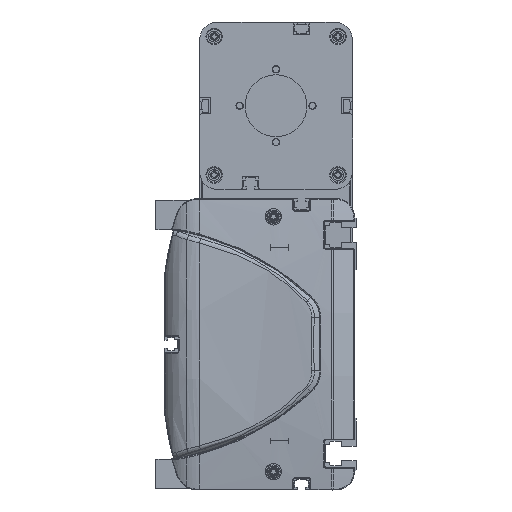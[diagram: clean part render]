
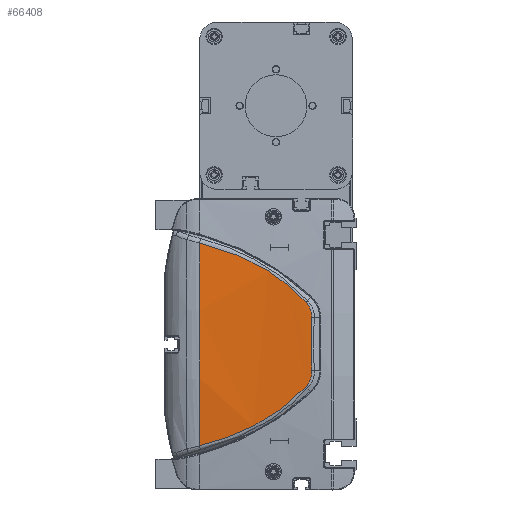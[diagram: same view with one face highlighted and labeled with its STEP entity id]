
A CAD part, left-side view. The second image highlights one B-rep face of the part: STEP entity #66408.
In plain terms, the highlighted cylindrical face has radius 600 mm (diameter 1200 mm), a partial arc.
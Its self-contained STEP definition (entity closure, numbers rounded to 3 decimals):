
#61238=CARTESIAN_POINT('',(-12.406,86.,
55.736));
#61239=CARTESIAN_POINT('',(-12.529,80.495,
54.41));
#61240=CARTESIAN_POINT('',(-12.828,69.636,
51.114));
#61241=CARTESIAN_POINT('',(-13.389,54.079,
44.179));
#61242=CARTESIAN_POINT('',(-14.01,39.709,
34.979));
#61243=CARTESIAN_POINT('',(-14.395,31.353,
27.243));
#61244=CARTESIAN_POINT('',(-14.555,27.451,
23.113));
#61246=CARTESIAN_POINT('',(-14.555,27.451,
23.113));
#61247=CARTESIAN_POINT('',(-14.598,26.394,
21.994));
#61248=CARTESIAN_POINT('',(-14.695,24.746,
19.315));
#61249=CARTESIAN_POINT('',(-14.783,24.276,
16.208));
#61250=CARTESIAN_POINT('',(-14.821,24.351,
14.67));
#61252=CARTESIAN_POINT('',(-14.821,24.351,
14.67));
#61253=CARTESIAN_POINT('',(-14.9,24.51,
11.413));
#61254=CARTESIAN_POINT('',(-15.007,24.721,
4.895));
#61255=CARTESIAN_POINT('',(-15.007,24.721,
-4.895));
#61256=CARTESIAN_POINT('',(-14.9,24.51,
-11.413));
#61257=CARTESIAN_POINT('',(-14.821,24.351,
-14.67));
#61259=CARTESIAN_POINT('',(-14.821,24.351,
-14.67));
#61260=CARTESIAN_POINT('',(-14.783,24.276,
-16.208));
#61261=CARTESIAN_POINT('',(-14.695,24.746,
-19.315));
#61262=CARTESIAN_POINT('',(-14.598,26.394,
-21.995));
#61263=CARTESIAN_POINT('',(-14.555,27.451,
-23.113));
#61265=CARTESIAN_POINT('',(-14.555,27.451,
-23.113));
#61266=CARTESIAN_POINT('',(-14.395,31.353,
-27.243));
#61267=CARTESIAN_POINT('',(-14.01,39.709,
-34.979));
#61268=CARTESIAN_POINT('',(-13.389,54.079,
-44.179));
#61269=CARTESIAN_POINT('',(-12.828,69.636,
-51.114));
#61270=CARTESIAN_POINT('',(-12.529,80.495,
-54.41));
#61271=CARTESIAN_POINT('',(-12.406,86.,
-55.736));
#61273=CARTESIAN_POINT('',(585.,86.,0.));
#61274=DIRECTION('',(0.,1.,0.));
#61275=DIRECTION('',(-0.996,0.,-0.093));
#61276=AXIS2_PLACEMENT_3D('',#61273,#61274,#61275);
#61289=CARTESIAN_POINT('',(-12.406,86.,
55.736));
#61812=VERTEX_POINT('',#61289);
#61813=CARTESIAN_POINT('',(-12.406,86.,
-55.736));
#61814=VERTEX_POINT('',#61813);
#61866=VERTEX_POINT('',#61244);
#61867=VERTEX_POINT('',#61250);
#61868=VERTEX_POINT('',#61257);
#61869=VERTEX_POINT('',#61263);
#66390=CARTESIAN_POINT('',(585.,87.45,0.));
#66391=DIRECTION('',(0.,-1.,0.));
#66392=DIRECTION('',(0.,0.,-1.));
#66393=AXIS2_PLACEMENT_3D('',#66390,#66391,#66392);
#66394=CYLINDRICAL_SURFACE('',#66393,600.);
#66396=ORIENTED_EDGE('',*,*,#66395,.T.);
#66398=ORIENTED_EDGE('',*,*,#66397,.T.);
#66399=ORIENTED_EDGE('',*,*,#66380,.T.);
#66401=ORIENTED_EDGE('',*,*,#66400,.T.);
#66403=ORIENTED_EDGE('',*,*,#66402,.T.);
#66405=ORIENTED_EDGE('',*,*,#66404,.T.);
#66406=EDGE_LOOP('',(#66396,#66398,#66399,#66401,#66403,#66405));
#66407=FACE_OUTER_BOUND('',#66406,.F.);
#66408=ADVANCED_FACE('',(#66407),#66394,.T.);
#61245=B_SPLINE_CURVE_WITH_KNOTS('',3,(#61238,#61239,#61240,#61241,#61242,
#61243,#61244),.UNSPECIFIED.,.F.,.F.,(4,1,1,1,4),(0.,0.25,0.5,0.75,
1.),.UNSPECIFIED.);
#61251=B_SPLINE_CURVE_WITH_KNOTS('',3,(#61246,#61247,#61248,#61249,#61250),
.UNSPECIFIED.,.F.,.F.,(4,1,4),(0.,0.5,1.),.UNSPECIFIED.);
#61258=B_SPLINE_CURVE_WITH_KNOTS('',3,(#61252,#61253,#61254,#61255,#61256,
#61257),.UNSPECIFIED.,.F.,.F.,(4,1,1,4),(0.,0.333,
0.667,1.),.UNSPECIFIED.);
#61264=B_SPLINE_CURVE_WITH_KNOTS('',3,(#61259,#61260,#61261,#61262,#61263),
.UNSPECIFIED.,.F.,.F.,(4,1,4),(0.,0.5,1.),.UNSPECIFIED.);
#61272=B_SPLINE_CURVE_WITH_KNOTS('',3,(#61265,#61266,#61267,#61268,#61269,
#61270,#61271),.UNSPECIFIED.,.F.,.F.,(4,1,1,1,4),(0.,0.25,0.5,0.75,
1.),.UNSPECIFIED.);
#61277=CIRCLE('',#61276,600.);
#66380=EDGE_CURVE('',#61867,#61868,#61258,.T.);
#66395=EDGE_CURVE('',#61812,#61866,#61245,.T.);
#66397=EDGE_CURVE('',#61866,#61867,#61251,.T.);
#66400=EDGE_CURVE('',#61868,#61869,#61264,.T.);
#66402=EDGE_CURVE('',#61869,#61814,#61272,.T.);
#66404=EDGE_CURVE('',#61814,#61812,#61277,.T.);
